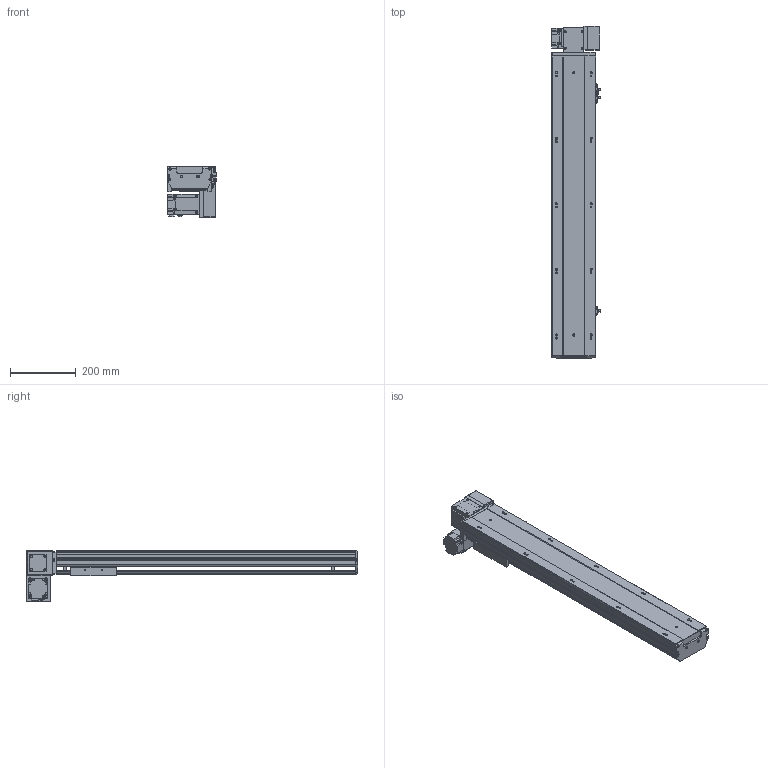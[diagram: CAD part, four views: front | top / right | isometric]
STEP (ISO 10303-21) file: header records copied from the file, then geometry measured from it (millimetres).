
FILE_DESCRIPTION (( 'STEP AP203' ), '1' );
FILE_NAME ('65.STEP', '2022-07-22T01:04:47', ( '' ), ( '' ), 'SwSTEP 2.0', 'SolidWorks 2016', '' );
FILE_SCHEMA (( 'CONFIG_CONTROL_DESIGN' ));
Length unit declared in the file: millimetre
Products named in the file (10): BTB14-L-23; BTB14-L-04; BTB14-L-M40; BTB14-L-06; BTB14-L-菁釱_XD; BTB14-L-24; BTB14-L-01; 65; BTB14-L-HZ; BTB14-L-02
Assembly tree (12 placements, depth 2):
  65
    BTB14-L-菁釱_XD
    BTB14-L-01
    BTB14-L-02
    BTB14-L-04  x3
    BTB14-L-06
    BTB14-L-23  x2
    BTB14-L-24
    BTB14-L-HZ
    BTB14-L-M40
Bounding box: 148.7 x 1012.5 x 156.7 mm (x, y, z)
Volume: 4867417.4 mm3; surface area: 1047561.7 mm2
Topology: 22 solids, 22 shells, 1594 faces, 4213 edges, 2692 vertices
Faces by surface type: plane 937, cylinder 448, cone 120, bspline 77, torus 12
Entity records: 42198 total; most frequent: CARTESIAN_POINT 10483, ORIENTED_EDGE 6356, DIRECTION 6284, EDGE_CURVE 3178, VECTOR 2182, LINE 2182, VERTEX_POINT 2070, AXIS2_PLACEMENT_3D 2051
